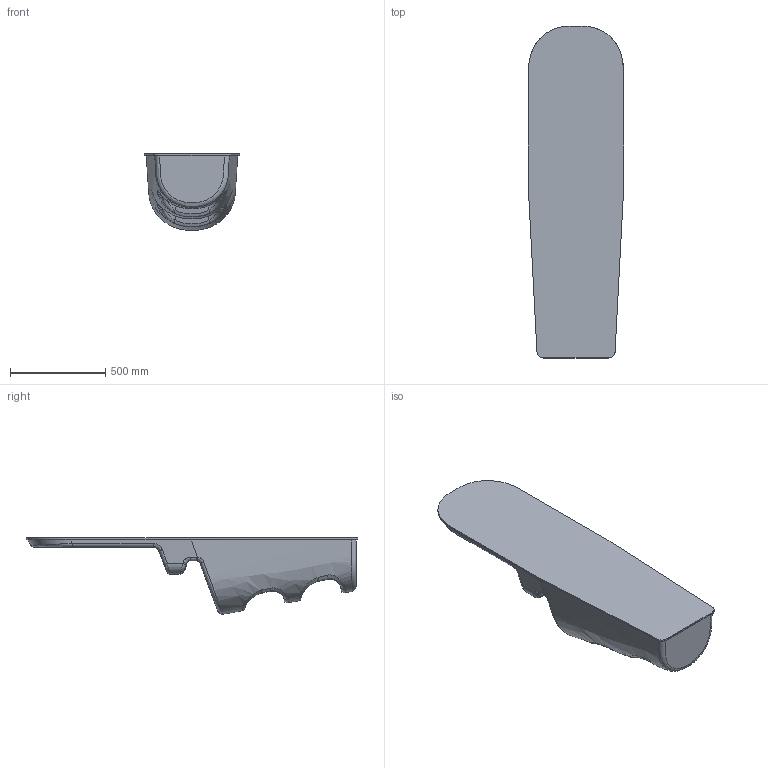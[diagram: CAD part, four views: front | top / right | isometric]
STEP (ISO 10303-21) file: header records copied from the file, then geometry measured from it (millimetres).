
FILE_DESCRIPTION(/* description */ (''),/* implementation_level */ '2;1');
FILE_NAME(/* name */ 'Arc Basin with Storage - STEP (Simplified).stp',/* time_stamp */ '2025-06-19T15:26:07+01:00',/* author */ ('Brian.Thangei'),/* organization */ (''),/* preprocessor_version */ 'ST-DEVELOPER v20',/* originating_system */ 'Autodesk Inventor 2025',/* authorisation */ '');
FILE_SCHEMA (('AUTOMOTIVE_DESIGN { 1 0 10303 214 3 1 1 }'));
Products named in the file (1): Arc Basin With Storage - Mist Grey (Simplified)
Bounding box: 500 x 1747.27 x 403.03 mm (x, y, z)
Volume: 32762764 mm3; surface area: 5095508.9 mm2
Topology: 2 solids, 4 shells, 457 faces, 1171 edges, 723 vertices
Faces by surface type: bspline 236, cylinder 121, plane 90, torus 6, cone 4
Full cylindrical faces by diameter (mm): 3.111 x5, 3.908 x4, 4.2 x22, 23.6 x2, 25 x2, 28.9 x1, 30 x1, 52.9 x1
Entity records: 186604 total; most frequent: CARTESIAN_POINT 176782, ORIENTED_EDGE 2312, DIRECTION 1263, EDGE_CURVE 1158, VERTEX_POINT 723, B_SPLINE_CURVE_WITH_KNOTS 578, EDGE_LOOP 519, AXIS2_PLACEMENT_3D 471
